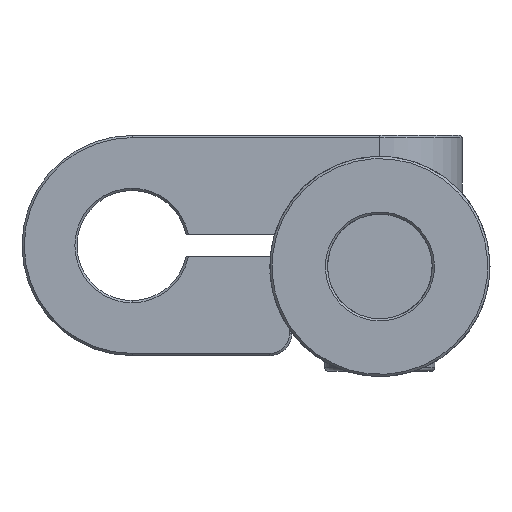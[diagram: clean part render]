
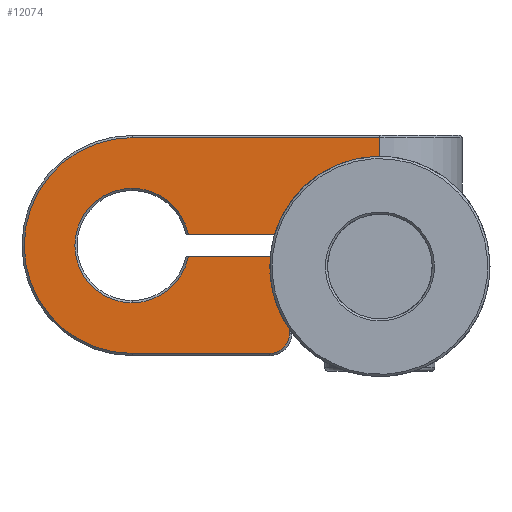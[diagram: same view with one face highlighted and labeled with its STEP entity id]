
A CAD part, front view. The second image highlights one B-rep face of the part: STEP entity #12074.
In plain terms, the highlighted planar face has unit normal (0, -1, 0).
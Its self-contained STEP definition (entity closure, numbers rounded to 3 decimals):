
#19 = CARTESIAN_POINT ( 'NONE',  ( -0.7, 4., -9.6 ) ) ;
#73 = ORIENTED_EDGE ( 'NONE', *, *, #13238, .T. ) ;
#154 = AXIS2_PLACEMENT_3D ( 'NONE', #11047, #2881, #12425 ) ;
#294 = PLANE ( 'NONE',  #11407 ) ;
#377 = EDGE_CURVE ( 'NONE', #1307, #11330, #13315, .T. ) ;
#463 = EDGE_CURVE ( 'NONE', #9010, #8991, #7997, .T. ) ;
#500 = ORIENTED_EDGE ( 'NONE', *, *, #1737, .T. ) ;
#1274 = CARTESIAN_POINT ( 'NONE',  ( -2.5, 4., -9.6 ) ) ;
#1305 = LINE ( 'NONE', #5958, #11303 ) ;
#1307 = VERTEX_POINT ( 'NONE', #11594 ) ;
#1351 = CIRCLE ( 'NONE', #154, 5.2 ) ;
#1446 = ORIENTED_EDGE ( 'NONE', *, *, #7123, .T. ) ;
#1656 = VECTOR ( 'NONE', #4945, 1000. ) ;
#1737 = EDGE_CURVE ( 'NONE', #3981, #6780, #11437, .T. ) ;
#1760 = CARTESIAN_POINT ( 'NONE',  ( -15., 4., -1.6 ) ) ;
#1818 = CARTESIAN_POINT ( 'NONE',  ( -9.897, 4., -2.6 ) ) ;
#1839 = DIRECTION ( 'NONE',  ( 0., 0., -1. ) ) ;
#1851 = DIRECTION ( 'NONE',  ( -1., 0., 0. ) ) ;
#1955 = ORIENTED_EDGE ( 'NONE', *, *, #17625, .F. ) ;
#2246 = CARTESIAN_POINT ( 'NONE',  ( -15., 4., 3.6 ) ) ;
#2413 = CARTESIAN_POINT ( 'NONE',  ( -15., 4., -11.4 ) ) ;
#2483 = VERTEX_POINT ( 'NONE', #12172 ) ;
#2611 = ORIENTED_EDGE ( 'NONE', *, *, #5719, .T. ) ;
#2709 = ORIENTED_EDGE ( 'NONE', *, *, #7176, .T. ) ;
#2842 = ORIENTED_EDGE ( 'NONE', *, *, #15216, .F. ) ;
#2881 = DIRECTION ( 'NONE',  ( 0., 1., 0. ) ) ;
#3117 = DIRECTION ( 'NONE',  ( -1., 0., 0. ) ) ;
#3211 = EDGE_CURVE ( 'NONE', #7316, #11049, #6499, .T. ) ;
#3341 = LINE ( 'NONE', #11346, #17395 ) ;
#3499 = CARTESIAN_POINT ( 'NONE',  ( 7.5, 4., 0.6 ) ) ;
#3849 = VERTEX_POINT ( 'NONE', #10385 ) ;
#3981 = VERTEX_POINT ( 'NONE', #8470 ) ;
#4400 = VECTOR ( 'NONE', #6038, 1000. ) ;
#4872 = CARTESIAN_POINT ( 'NONE',  ( -5., 4., 0.6 ) ) ;
#4945 = DIRECTION ( 'NONE',  ( 1., 0., 0. ) ) ;
#5719 = EDGE_CURVE ( 'NONE', #11330, #17652, #11003, .T. ) ;
#5750 = DIRECTION ( 'NONE',  ( 0., 0., 1. ) ) ;
#5958 = CARTESIAN_POINT ( 'NONE',  ( 7.5, 4., -1.6 ) ) ;
#5968 = VECTOR ( 'NONE', #8114, 1000. ) ;
#6024 = CARTESIAN_POINT ( 'NONE',  ( -15., 4., -1.6 ) ) ;
#6038 = DIRECTION ( 'NONE',  ( -1., 0., 0. ) ) ;
#6246 = DIRECTION ( 'NONE',  ( 1., 0., 0. ) ) ;
#6499 = CIRCLE ( 'NONE', #15085, 5.2 ) ;
#6613 = EDGE_CURVE ( 'NONE', #11049, #3849, #1351, .T. ) ;
#6780 = VERTEX_POINT ( 'NONE', #2413 ) ;
#6781 = DIRECTION ( 'NONE',  ( 0., 0., 1. ) ) ;
#6871 = ORIENTED_EDGE ( 'NONE', *, *, #13191, .F. ) ;
#6911 = DIRECTION ( 'NONE',  ( 0., 1., 0. ) ) ;
#7123 = EDGE_CURVE ( 'NONE', #2483, #3981, #3341, .T. ) ;
#7153 = DIRECTION ( 'NONE',  ( 0., 1., 0. ) ) ;
#7176 = EDGE_CURVE ( 'NONE', #10753, #7316, #15677, .T. ) ;
#7316 = VERTEX_POINT ( 'NONE', #17057 ) ;
#7376 = DIRECTION ( 'NONE',  ( -1., 0., 0. ) ) ;
#7563 = ORIENTED_EDGE ( 'NONE', *, *, #377, .T. ) ;
#7997 = CIRCLE ( 'NONE', #16370, 1.2 ) ;
#8114 = DIRECTION ( 'NONE',  ( 1., 0., 0. ) ) ;
#8232 = CARTESIAN_POINT ( 'NONE',  ( -15., 4., -1.6 ) ) ;
#8299 = CARTESIAN_POINT ( 'NONE',  ( -0.7, 4., -2.6 ) ) ;
#8470 = CARTESIAN_POINT ( 'NONE',  ( -15., 4., 8.2 ) ) ;
#8543 = AXIS2_PLACEMENT_3D ( 'NONE', #8232, #12216, #16207 ) ;
#8675 = CARTESIAN_POINT ( 'NONE',  ( 0.5, 4., 0.6 ) ) ;
#8941 = ORIENTED_EDGE ( 'NONE', *, *, #6613, .T. ) ;
#8991 = VERTEX_POINT ( 'NONE', #8675 ) ;
#9010 = VERTEX_POINT ( 'NONE', #17059 ) ;
#9023 = AXIS2_PLACEMENT_3D ( 'NONE', #1274, #17052, #6781 ) ;
#9320 = ORIENTED_EDGE ( 'NONE', *, *, #463, .T. ) ;
#9722 = EDGE_LOOP ( 'NONE', ( #1955, #2709, #14234, #8941, #6871, #9320, #73, #2842, #1446, #500, #13649, #7563, #2611 ) ) ;
#10385 = CARTESIAN_POINT ( 'NONE',  ( -9.897, 4., -0.6 ) ) ;
#10539 = VECTOR ( 'NONE', #5750, 1000. ) ;
#10613 = DIRECTION ( 'NONE',  ( 0., 0., 1. ) ) ;
#10753 = VERTEX_POINT ( 'NONE', #1818 ) ;
#11003 = LINE ( 'NONE', #15245, #10539 ) ;
#11011 = VERTEX_POINT ( 'NONE', #3499 ) ;
#11047 = CARTESIAN_POINT ( 'NONE',  ( -15., 4., -1.6 ) ) ;
#11049 = VERTEX_POINT ( 'NONE', #2246 ) ;
#11189 = LINE ( 'NONE', #17017, #4400 ) ;
#11260 = DIRECTION ( 'NONE',  ( 0., 1., 0. ) ) ;
#11303 = VECTOR ( 'NONE', #1839, 1000. ) ;
#11330 = VERTEX_POINT ( 'NONE', #19 ) ;
#11346 = CARTESIAN_POINT ( 'NONE',  ( -5., 4., 8.2 ) ) ;
#11407 = AXIS2_PLACEMENT_3D ( 'NONE', #15287, #7153, #16671 ) ;
#11437 = CIRCLE ( 'NONE', #8543, 9.8 ) ;
#11594 = CARTESIAN_POINT ( 'NONE',  ( -2.5, 4., -11.4 ) ) ;
#11700 = CARTESIAN_POINT ( 'NONE',  ( -5., 4., -11.4 ) ) ;
#12074 = ADVANCED_FACE ( 'NONE', ( #16147 ), #294, .F. ) ;
#12172 = CARTESIAN_POINT ( 'NONE',  ( 7.5, 4., 8.2 ) ) ;
#12216 = DIRECTION ( 'NONE',  ( 0., -1., 0. ) ) ;
#12425 = DIRECTION ( 'NONE',  ( -1., 0., 0. ) ) ;
#12533 = LINE ( 'NONE', #11700, #1656 ) ;
#13090 = LINE ( 'NONE', #4872, #16746 ) ;
#13133 = AXIS2_PLACEMENT_3D ( 'NONE', #6024, #15522, #7376 ) ;
#13191 = EDGE_CURVE ( 'NONE', #9010, #3849, #11189, .T. ) ;
#13238 = EDGE_CURVE ( 'NONE', #8991, #11011, #13090, .T. ) ;
#13315 = CIRCLE ( 'NONE', #9023, 1.8 ) ;
#13649 = ORIENTED_EDGE ( 'NONE', *, *, #16912, .T. ) ;
#14234 = ORIENTED_EDGE ( 'NONE', *, *, #3211, .T. ) ;
#15085 = AXIS2_PLACEMENT_3D ( 'NONE', #1760, #11260, #3117 ) ;
#15216 = EDGE_CURVE ( 'NONE', #2483, #11011, #1305, .T. ) ;
#15245 = CARTESIAN_POINT ( 'NONE',  ( -0.7, 4., -1.6 ) ) ;
#15287 = CARTESIAN_POINT ( 'NONE',  ( -5., 4., -1.6 ) ) ;
#15522 = DIRECTION ( 'NONE',  ( 0., 1., 0. ) ) ;
#15677 = CIRCLE ( 'NONE', #13133, 5.2 ) ;
#16147 = FACE_OUTER_BOUND ( 'NONE', #9722, .T. ) ;
#16207 = DIRECTION ( 'NONE',  ( 0., 0., 1. ) ) ;
#16370 = AXIS2_PLACEMENT_3D ( 'NONE', #17404, #6911, #10613 ) ;
#16671 = DIRECTION ( 'NONE',  ( 0., 0., 1. ) ) ;
#16746 = VECTOR ( 'NONE', #6246, 1000. ) ;
#16830 = LINE ( 'NONE', #17646, #5968 ) ;
#16912 = EDGE_CURVE ( 'NONE', #6780, #1307, #12533, .T. ) ;
#17017 = CARTESIAN_POINT ( 'NONE',  ( -5., 4., -0.6 ) ) ;
#17052 = DIRECTION ( 'NONE',  ( 0., -1., 0. ) ) ;
#17057 = CARTESIAN_POINT ( 'NONE',  ( -15., 4., -6.8 ) ) ;
#17059 = CARTESIAN_POINT ( 'NONE',  ( -0.7, 4., -0.6 ) ) ;
#17395 = VECTOR ( 'NONE', #1851, 1000. ) ;
#17404 = CARTESIAN_POINT ( 'NONE',  ( 0.5, 4., -0.6 ) ) ;
#17625 = EDGE_CURVE ( 'NONE', #10753, #17652, #16830, .T. ) ;
#17646 = CARTESIAN_POINT ( 'NONE',  ( -5., 4., -2.6 ) ) ;
#17652 = VERTEX_POINT ( 'NONE', #8299 ) ;
